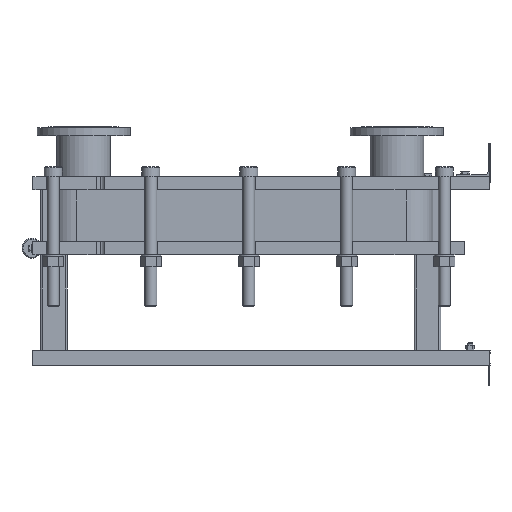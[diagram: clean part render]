
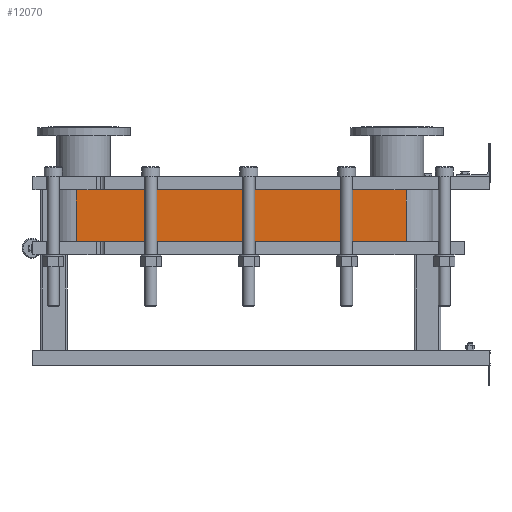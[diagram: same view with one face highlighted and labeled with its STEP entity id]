
A CAD part, left-side view. The second image highlights one B-rep face of the part: STEP entity #12070.
In plain terms, the highlighted planar face has unit normal (-1, 0, 0).
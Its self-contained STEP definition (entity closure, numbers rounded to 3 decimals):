
#1064=LINE('',#21140,#2164);
#1065=LINE('',#21144,#2165);
#1066=LINE('',#21146,#2166);
#1067=LINE('',#21147,#2167);
#2164=VECTOR('',#15790,10.);
#2165=VECTOR('',#15795,10.);
#2166=VECTOR('',#15796,10.);
#2167=VECTOR('',#15797,10.);
#3304=FACE_OUTER_BOUND('',#4091,.T.);
#4091=EDGE_LOOP('',(#9793,#9794,#9795,#9796));
#5677=VERTEX_POINT('',#21137);
#5678=VERTEX_POINT('',#21139);
#5679=VERTEX_POINT('',#21143);
#5680=VERTEX_POINT('',#21145);
#7118=EDGE_CURVE('',#5678,#5677,#1064,.T.);
#7120=EDGE_CURVE('',#5677,#5679,#1065,.T.);
#7121=EDGE_CURVE('',#5680,#5679,#1066,.T.);
#7122=EDGE_CURVE('',#5680,#5678,#1067,.T.);
#9793=ORIENTED_EDGE('',*,*,#7120,.T.);
#9794=ORIENTED_EDGE('',*,*,#7121,.F.);
#9795=ORIENTED_EDGE('',*,*,#7122,.T.);
#9796=ORIENTED_EDGE('',*,*,#7118,.T.);
#11441=PLANE('',#13191);
#12070=ADVANCED_FACE('',(#3304),#11441,.T.);
#13191=AXIS2_PLACEMENT_3D('',#21142,#15793,#15794);
#15790=DIRECTION('',(0.,0.,-1.));
#15793=DIRECTION('center_axis',(-1.,0.,0.));
#15794=DIRECTION('ref_axis',(0.,1.,0.));
#15795=DIRECTION('',(0.,-1.,0.));
#15796=DIRECTION('',(0.,0.,-1.));
#15797=DIRECTION('',(0.,1.,0.));
#21137=CARTESIAN_POINT('',(-248.152,1243.818,-155.25));
#21139=CARTESIAN_POINT('',(-248.152,1243.818,0.));
#21140=CARTESIAN_POINT('',(-248.152,1243.818,0.));
#21142=CARTESIAN_POINT('Origin',(-248.152,251.818,0.));
#21143=CARTESIAN_POINT('',(-248.152,251.818,-155.25));
#21144=CARTESIAN_POINT('',(-248.152,499.818,-155.25));
#21145=CARTESIAN_POINT('',(-248.152,251.818,0.));
#21146=CARTESIAN_POINT('',(-248.152,251.818,0.));
#21147=CARTESIAN_POINT('',(-248.152,251.818,0.));
